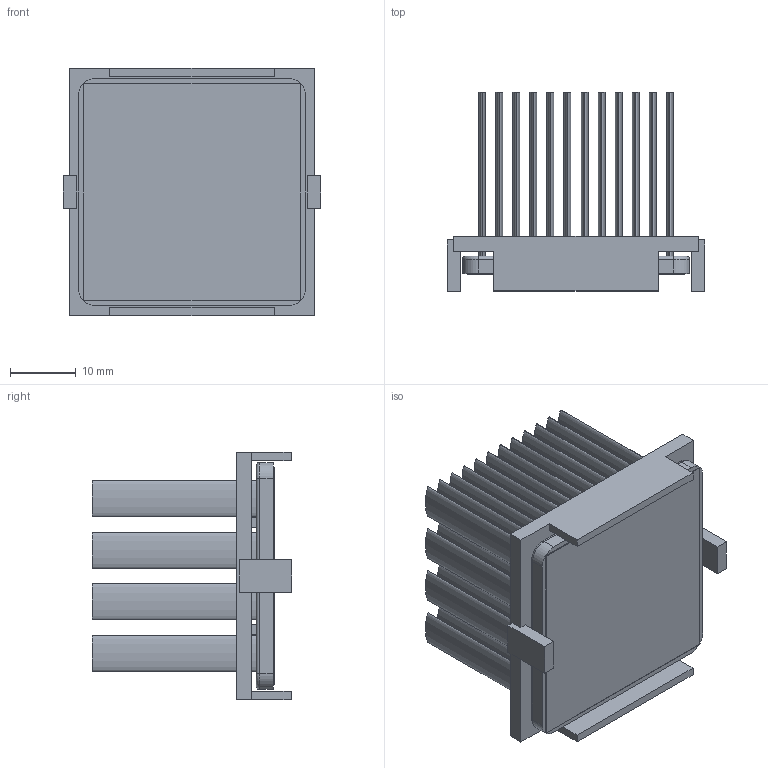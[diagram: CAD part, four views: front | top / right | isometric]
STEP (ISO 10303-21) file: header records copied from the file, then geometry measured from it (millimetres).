
FILE_DESCRIPTION (( 'STEP AP214' ), '1' );
FILE_NAME ('INM35001-28W-2.6K29.STEP', '2023-02-20T22:36:05', ( '' ), ( '' ), 'SwSTEP 2.0', 'SolidWorks 2020', '' );
FILE_SCHEMA (( 'AUTOMOTIVE_DESIGN' ));
Length unit declared in the file: inch
Products named in the file (1): INM35001-28W-2.6K29
Bounding box: 39.2 x 30.4 x 37.7 mm (x, y, z)
Volume: 10480.3 mm3; surface area: 21293.5 mm2
Topology: 3 solids, 3 shells, 222 faces, 496 edges, 328 vertices
Faces by surface type: plane 114, bspline 96, cylinder 8, torus 4
Entity records: 9276 total; most frequent: CARTESIAN_POINT 2295, ORIENTED_EDGE 992, DIRECTION 578, EDGE_CURVE 496, VERTEX_POINT 328, LINE 284, VECTOR 284, EDGE_LOOP 272
